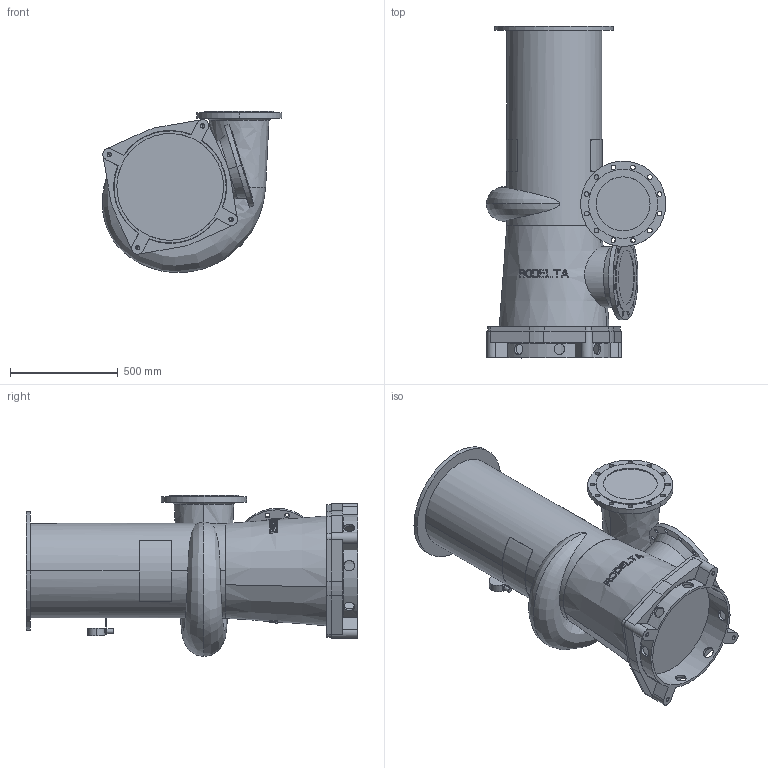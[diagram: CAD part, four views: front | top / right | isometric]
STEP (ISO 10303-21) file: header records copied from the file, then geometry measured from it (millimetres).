
FILE_DESCRIPTION((''),'2;1');
FILE_NAME('8510_ASM','2024-07-30T',('Lyritlocal'),(''),'PRO/ENGINEER BY PARAMETRIC TECHNOLOGY CORPORATION, 2016360','PRO/ENGINEER BY PARAMETRIC TECHNOLOGY CORPORATION, 2016360','');
FILE_SCHEMA(('CONFIG_CONTROL_DESIGN'));
Length unit declared in the file: millimetre
Products named in the file (3): 8510; 8510_VOET; 8510_ASM
Assembly tree (2 placements, depth 2):
  8510_ASM
    8510
    8510_VOET
Bounding box: 832.31 x 1539 x 747.28 mm (x, y, z)
Volume: 297748321.2 mm3; surface area: 4725053.7 mm2
Topology: 2 solids, 6 shells, 542 faces, 1460 edges, 967 vertices
Faces by surface type: plane 343, cylinder 155, cone 34, bspline 6, torus 4
Entity records: 19328 total; most frequent: CARTESIAN_POINT 6085, ORIENTED_EDGE 2888, DIRECTION 2477, EDGE_CURVE 1452, VERTEX_POINT 967, AXIS2_PLACEMENT_3D 961, EDGE_LOOP 659, VECTOR 555
